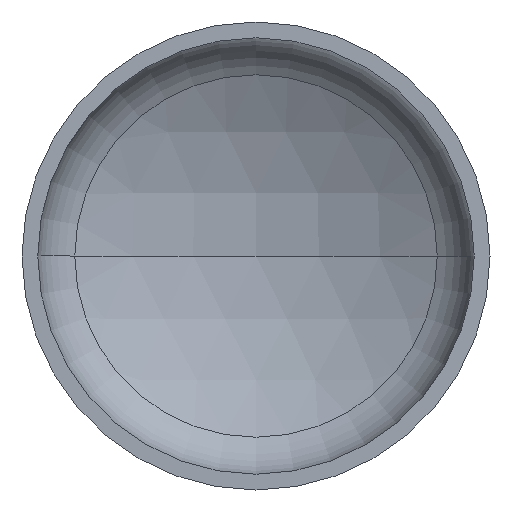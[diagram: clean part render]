
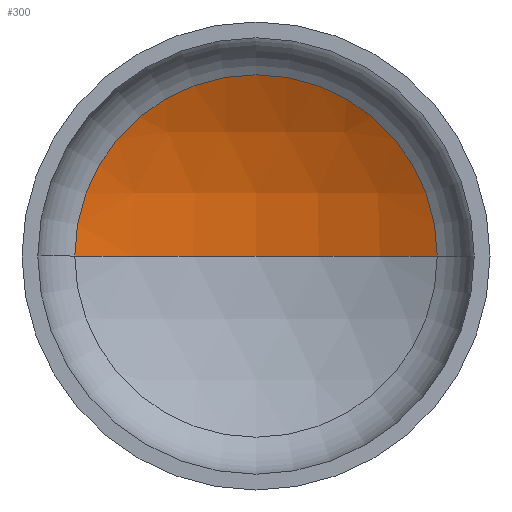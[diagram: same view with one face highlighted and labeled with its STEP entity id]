
A CAD part, front view. The second image highlights one B-rep face of the part: STEP entity #300.
In plain terms, the highlighted spherical face has radius 1280 mm.
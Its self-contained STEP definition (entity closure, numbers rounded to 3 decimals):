
#7 = AXIS2_PLACEMENT_3D ( 'NONE', #396, #261, #356 ) ;
#16 = ORIENTED_EDGE ( 'NONE', *, *, #388, .F. ) ;
#18 = AXIS2_PLACEMENT_3D ( 'NONE', #319, #323, #226 ) ;
#20 = AXIS2_PLACEMENT_3D ( 'NONE', #165, #177, #250 ) ;
#27 = EDGE_LOOP ( 'NONE', ( #16, #124, #110 ) ) ;
#33 = AXIS2_PLACEMENT_3D ( 'NONE', #243, #275, #54 ) ;
#53 = VERTEX_POINT ( 'NONE', #369 ) ;
#54 = DIRECTION ( 'NONE',  ( -1., 0., 0. ) ) ;
#97 = VERTEX_POINT ( 'NONE', #334 ) ;
#110 = ORIENTED_EDGE ( 'NONE', *, *, #351, .T. ) ;
#116 = VERTEX_POINT ( 'NONE', #203 ) ;
#124 = ORIENTED_EDGE ( 'NONE', *, *, #352, .T. ) ;
#165 = CARTESIAN_POINT ( 'NONE',  ( 0., 334.384, 0. ) ) ;
#177 = DIRECTION ( 'NONE',  ( 0., -1., 0. ) ) ;
#203 = CARTESIAN_POINT ( 'NONE',  ( -619.594, 334.384, 0. ) ) ;
#210 = CIRCLE ( 'NONE', #20, 619.594 ) ;
#216 = SPHERICAL_SURFACE ( 'NONE', #33, 1280. ) ;
#226 = DIRECTION ( 'NONE',  ( -1., 0., 0. ) ) ;
#243 = CARTESIAN_POINT ( 'NONE',  ( 0., -785.662, 0. ) ) ;
#250 = DIRECTION ( 'NONE',  ( 1., 0., 0. ) ) ;
#261 = DIRECTION ( 'NONE',  ( 0., 0., 1. ) ) ;
#275 = DIRECTION ( 'NONE',  ( 0., 0., -1. ) ) ;
#300 = ADVANCED_FACE ( 'NONE', ( #405 ), #216, .F. ) ;
#316 = CIRCLE ( 'NONE', #7, 1280. ) ;
#319 = CARTESIAN_POINT ( 'NONE',  ( 0., -785.662, 0. ) ) ;
#323 = DIRECTION ( 'NONE',  ( 0., 0., -1. ) ) ;
#331 = CIRCLE ( 'NONE', #18, 1280. ) ;
#334 = CARTESIAN_POINT ( 'NONE',  ( 619.594, 334.384, 0. ) ) ;
#351 = EDGE_CURVE ( 'NONE', #97, #116, #210, .T. ) ;
#352 = EDGE_CURVE ( 'NONE', #53, #97, #331, .T. ) ;
#356 = DIRECTION ( 'NONE',  ( 1., 0., 0. ) ) ;
#369 = CARTESIAN_POINT ( 'NONE',  ( 0., 494.338, 0. ) ) ;
#388 = EDGE_CURVE ( 'NONE', #53, #116, #316, .T. ) ;
#396 = CARTESIAN_POINT ( 'NONE',  ( 0., -785.662, 0. ) ) ;
#405 = FACE_OUTER_BOUND ( 'NONE', #27, .T. ) ;
